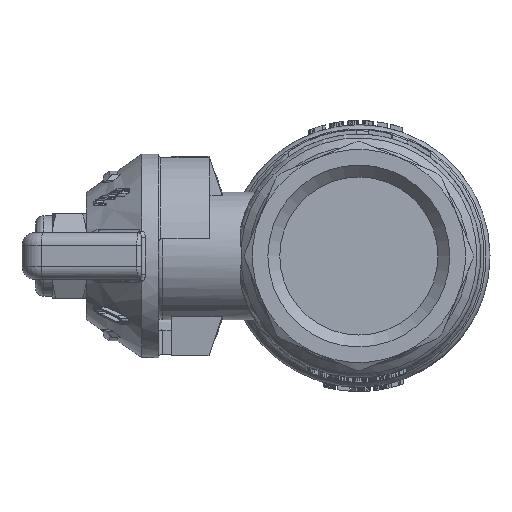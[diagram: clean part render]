
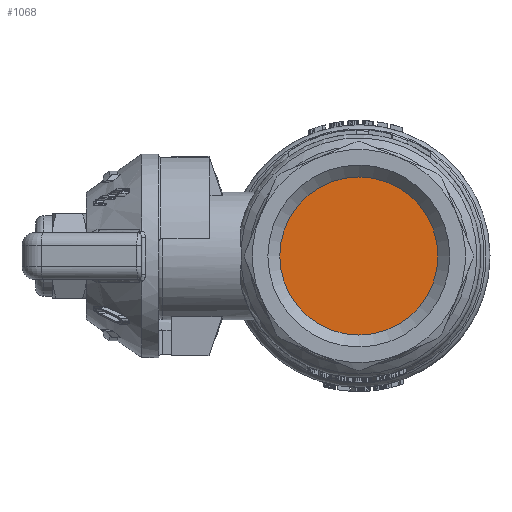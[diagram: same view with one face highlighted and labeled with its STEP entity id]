
A CAD part, left-side view. The second image highlights one B-rep face of the part: STEP entity #1068.
In plain terms, the highlighted planar face has unit normal (-1, 0, 0).
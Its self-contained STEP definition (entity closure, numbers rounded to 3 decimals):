
#1068=ADVANCED_FACE('',(#9846),#9848,.T.);
#9846=FACE_BOUND('',#9847,.T.);
#9847=EDGE_LOOP('',(#21328));
#9848=PLANE('',#9849);
#9849=AXIS2_PLACEMENT_3D('',#9850,#9851,#9852);
#9850=CARTESIAN_POINT('',(-13.,0.,0.));
#9851=DIRECTION('',(-1.,0.,0.));
#9852=DIRECTION('',(0.,0.,1.));
#21328=ORIENTED_EDGE('',*,*,#27909,.T.);
#27909=EDGE_CURVE('',#35477,#35477,#35478,.T.);
#35477=VERTEX_POINT('',#60708);
#35478=CIRCLE('',#60709,9.316);
#60708=CARTESIAN_POINT('',(-13.,0.,9.316));
#60709=AXIS2_PLACEMENT_3D('',#60710,#60711,#60712);
#60710=CARTESIAN_POINT('',(-13.,0.,0.));
#60711=DIRECTION('',(-1.,0.,0.));
#60712=DIRECTION('',(0.,0.,1.));
